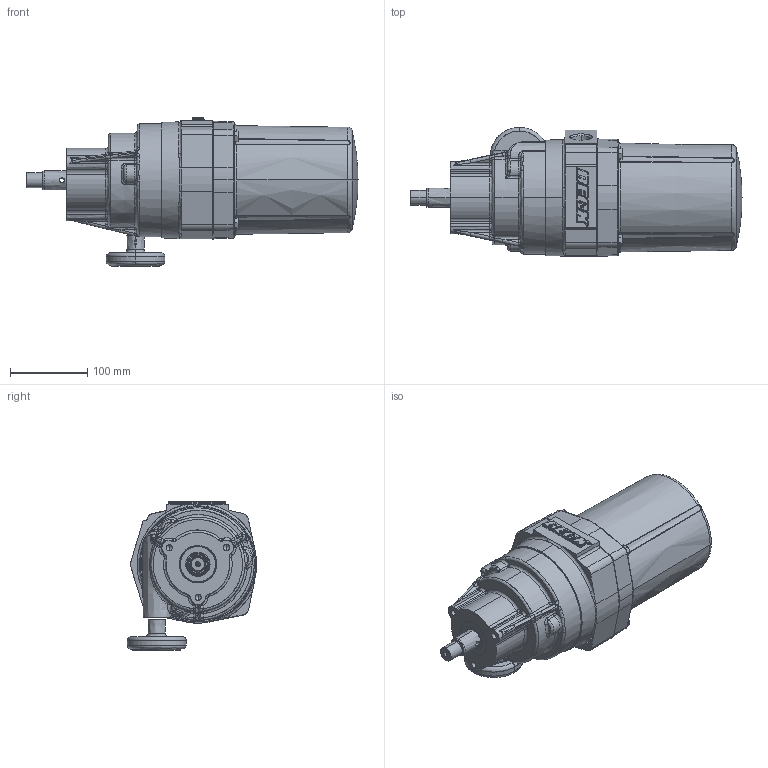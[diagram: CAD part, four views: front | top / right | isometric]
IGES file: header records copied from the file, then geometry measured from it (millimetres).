
Start section: SolidWorks IGES file using analytic representation for surfaces
Global section: file name: N:\Engineering\Product Support\Outline Dimension Models\31-xxx\IGES+STEP\18-0031-01.IGS; native system: SolidWorks 2009; preprocessor: SolidWorks 2009; author: jmack; date: 110616.125012; units: inch
Bounding box: 430.47 x 167.67 x 192.88 mm (x, y, z)
Surface area: 514149.9 mm2 (no closed solid volume)
Topology: 0 solids, 0 shells, 1812 faces, 19208 edges, 19107 vertices
Faces by surface type: revolution 1193, bspline 619
